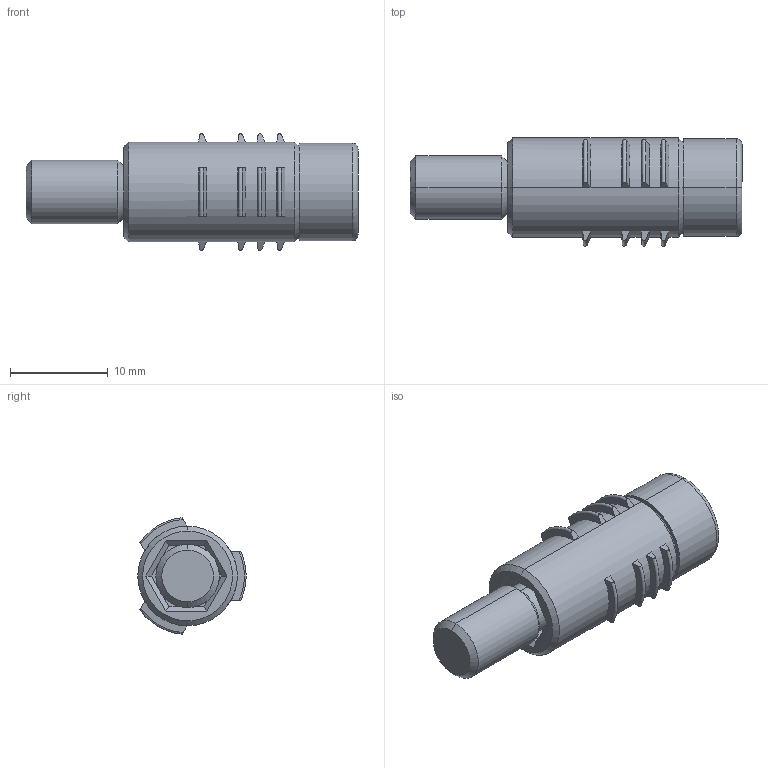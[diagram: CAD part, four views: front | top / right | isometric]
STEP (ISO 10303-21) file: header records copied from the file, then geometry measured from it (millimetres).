
FILE_DESCRIPTION (( 'STEP AP214' ), '1' );
FILE_NAME ('20057_VERBAV8.STEP', '2016-11-07T12:46:32', ( '' ), ( '' ), 'SwSTEP 2.0', 'SolidWorks 2016', '' );
FILE_SCHEMA (( 'AUTOMOTIVE_DESIGN' ));
Length unit declared in the file: millimetre
Products named in the file (3): 20057_schraube; 20057_VERBAV8; 20057_hülse
Assembly tree (2 placements, depth 2):
  20057_VERBAV8
    20057_hülse
    20057_schraube
Bounding box: 34 x 11.1 x 11.95 mm (x, y, z)
Volume: 1126.2 mm3; surface area: 2042.9 mm2
Topology: 1 solids, 3 shells, 119 faces, 270 edges, 170 vertices
Faces by surface type: plane 55, cone 34, torus 16, cylinder 14
Entity records: 3673 total; most frequent: CARTESIAN_POINT 925, DIRECTION 544, ORIENTED_EDGE 536, EDGE_CURVE 270, AXIS2_PLACEMENT_3D 221, VERTEX_POINT 170, EDGE_LOOP 136, FACE_OUTER_BOUND 119
